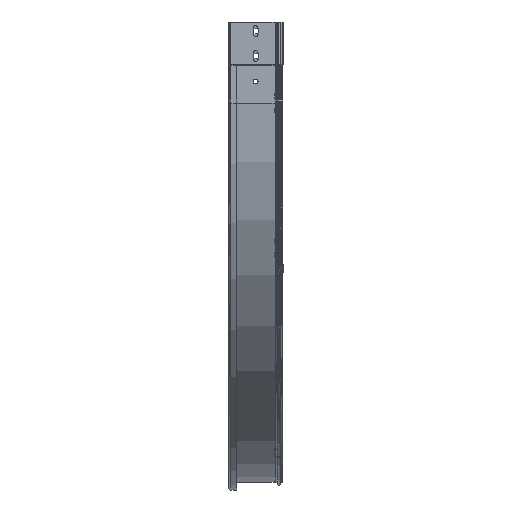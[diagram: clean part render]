
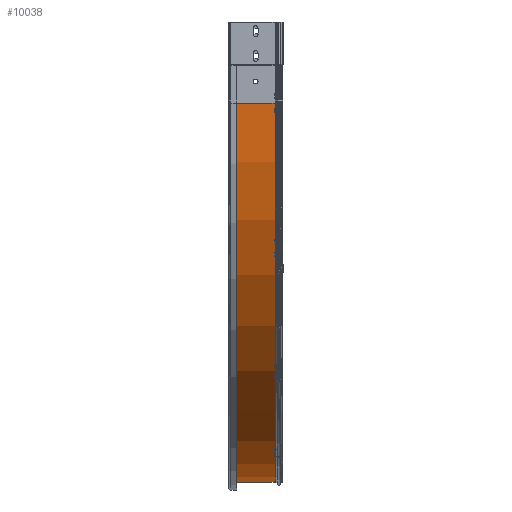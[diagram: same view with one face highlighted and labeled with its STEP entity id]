
A CAD part, left-side view. The second image highlights one B-rep face of the part: STEP entity #10038.
In plain terms, the highlighted cylindrical face has radius 701.5 mm (diameter 1403 mm), a partial arc.
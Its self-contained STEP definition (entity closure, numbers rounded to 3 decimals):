
#330 = VECTOR ( 'NONE', #7735, 1000. ) ;
#534 = DIRECTION ( 'NONE',  ( 0., 1., 0. ) ) ;
#1041 = EDGE_CURVE ( 'NONE', #12062, #12103, #4939, .T. ) ;
#1238 = CIRCLE ( 'NONE', #11220, 701.5 ) ;
#1420 = ORIENTED_EDGE ( 'NONE', *, *, #3467, .T. ) ;
#1521 = ORIENTED_EDGE ( 'NONE', *, *, #2972, .F. ) ;
#1750 = AXIS2_PLACEMENT_3D ( 'NONE', #11926, #7074, #3063 ) ;
#1867 = VECTOR ( 'NONE', #9432, 1000. ) ;
#1982 = EDGE_LOOP ( 'NONE', ( #11753, #3137, #1420, #1521 ) ) ;
#2219 = CARTESIAN_POINT ( 'NONE',  ( 700., 96., -150. ) ) ;
#2686 = CARTESIAN_POINT ( 'NONE',  ( 700., 96., -851.5 ) ) ;
#2733 = CARTESIAN_POINT ( 'NONE',  ( -1.5, 14.067, -150. ) ) ;
#2819 = CIRCLE ( 'NONE', #12179, 701.5 ) ;
#2972 = EDGE_CURVE ( 'NONE', #8553, #10727, #3507, .T. ) ;
#3063 = DIRECTION ( 'NONE',  ( 0., 0., 1. ) ) ;
#3137 = ORIENTED_EDGE ( 'NONE', *, *, #1041, .F. ) ;
#3467 = EDGE_CURVE ( 'NONE', #12062, #10727, #2819, .T. ) ;
#3507 = LINE ( 'NONE', #2733, #1867 ) ;
#3613 = CARTESIAN_POINT ( 'NONE',  ( -1.5, 14.067, -150. ) ) ;
#4939 = LINE ( 'NONE', #7856, #330 ) ;
#5539 = EDGE_CURVE ( 'NONE', #12103, #8553, #1238, .T. ) ;
#7074 = DIRECTION ( 'NONE',  ( 0., 1., 0. ) ) ;
#7140 = FACE_OUTER_BOUND ( 'NONE', #1982, .T. ) ;
#7594 = CARTESIAN_POINT ( 'NONE',  ( -1.5, 96., -150. ) ) ;
#7735 = DIRECTION ( 'NONE',  ( 0., 1., 0. ) ) ;
#7856 = CARTESIAN_POINT ( 'NONE',  ( 700., 14.067, -851.5 ) ) ;
#8039 = CYLINDRICAL_SURFACE ( 'NONE', #1750, 701.5 ) ;
#8403 = DIRECTION ( 'NONE',  ( 0., 0., 1. ) ) ;
#8553 = VERTEX_POINT ( 'NONE', #7594 ) ;
#8692 = DIRECTION ( 'NONE',  ( 0., 0., 1. ) ) ;
#9432 = DIRECTION ( 'NONE',  ( 0., -1., 0. ) ) ;
#9713 = DIRECTION ( 'NONE',  ( 0., 1., 0. ) ) ;
#10038 = ADVANCED_FACE ( 'NONE', ( #7140 ), #8039, .T. ) ;
#10380 = CARTESIAN_POINT ( 'NONE',  ( 700., 14.067, -150. ) ) ;
#10531 = CARTESIAN_POINT ( 'NONE',  ( 700., 14.067, -851.5 ) ) ;
#10727 = VERTEX_POINT ( 'NONE', #3613 ) ;
#11220 = AXIS2_PLACEMENT_3D ( 'NONE', #2219, #534, #8403 ) ;
#11753 = ORIENTED_EDGE ( 'NONE', *, *, #5539, .F. ) ;
#11926 = CARTESIAN_POINT ( 'NONE',  ( 700., 0., -150. ) ) ;
#12062 = VERTEX_POINT ( 'NONE', #10531 ) ;
#12103 = VERTEX_POINT ( 'NONE', #2686 ) ;
#12179 = AXIS2_PLACEMENT_3D ( 'NONE', #10380, #9713, #8692 ) ;
